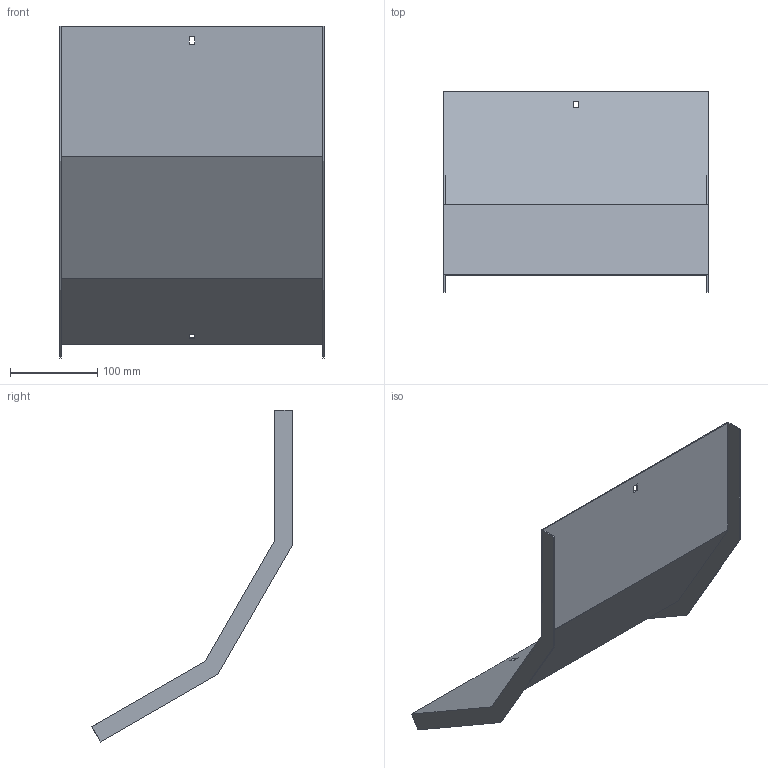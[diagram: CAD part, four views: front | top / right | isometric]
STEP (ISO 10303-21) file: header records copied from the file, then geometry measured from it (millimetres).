
FILE_DESCRIPTION (( 'STEP AP214' ), '1' );
FILE_NAME ('A2X40N3R300X.step', '2025-04-02T08:34:57', ( '' ), ( '' ), 'SwSTEP 2.0', 'SolidWorks 2023', '' );
FILE_SCHEMA (( 'AUTOMOTIVE_DESIGN' ));
Length unit declared in the file: millimetre
Products named in the file (1): A2X40N3R300X
Bounding box: 303 x 229.74 x 380.61 mm (x, y, z)
Volume: 235225.3 mm3; surface area: 316187.4 mm2
Topology: 1 solids, 1 shells, 26 faces, 72 edges, 48 vertices
Faces by surface type: plane 26
Entity records: 847 total; most frequent: CARTESIAN_POINT 147, ORIENTED_EDGE 144, DIRECTION 126, EDGE_CURVE 72, VECTOR 72, LINE 72, VERTEX_POINT 48, EDGE_LOOP 30
